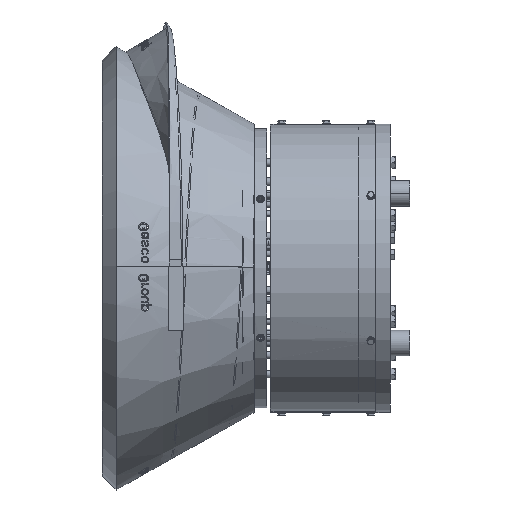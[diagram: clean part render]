
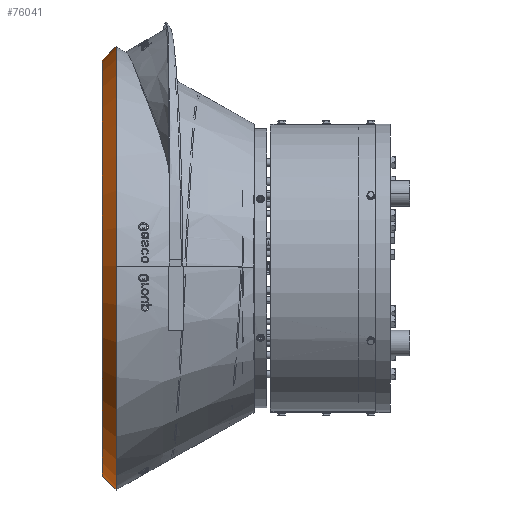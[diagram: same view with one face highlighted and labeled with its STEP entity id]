
A CAD part, left-side view. The second image highlights one B-rep face of the part: STEP entity #76041.
In plain terms, the highlighted conical face has half-angle 45 degrees and reference radius 335.079 mm.
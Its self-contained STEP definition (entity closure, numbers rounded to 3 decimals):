
#75862=CARTESIAN_POINT('',(0.,215.223,0.));
#75863=DIRECTION('',(0.,1.,0.));
#75864=DIRECTION('',(0.,0.,-1.));
#75865=AXIS2_PLACEMENT_3D('',#75862,#75863,#75864);
#75913=DIRECTION('',(0.,-0.707,-0.707));
#75914=VECTOR('',#75913,30.);
#75915=CARTESIAN_POINT('',(0.,236.436,
-324.472));
#75916=LINE('',#75915,#75914);
#75917=CARTESIAN_POINT('',(0.,236.436,0.));
#75918=DIRECTION('',(0.,1.,0.));
#75919=DIRECTION('',(0.,0.,-1.));
#75920=AXIS2_PLACEMENT_3D('',#75917,#75918,#75919);
#75922=DIRECTION('',(0.,-0.707,0.707));
#75923=VECTOR('',#75922,30.);
#75924=CARTESIAN_POINT('',(0.,236.436,
324.472));
#75925=LINE('',#75924,#75923);
#75930=CARTESIAN_POINT('',(0.,236.436,
-324.472));
#75931=VERTEX_POINT('',#75930);
#75932=CARTESIAN_POINT('',(0.,215.223,
-345.686));
#75933=VERTEX_POINT('',#75932);
#75938=CARTESIAN_POINT('',(0.,236.436,
324.472));
#75939=VERTEX_POINT('',#75938);
#75940=CARTESIAN_POINT('',(0.,215.223,
345.686));
#75941=VERTEX_POINT('',#75940);
#76030=CARTESIAN_POINT('',(0.,225.829,0.));
#76031=DIRECTION('',(0.,-1.,0.));
#76032=DIRECTION('',(0.,0.,1.));
#76033=AXIS2_PLACEMENT_3D('',#76030,#76031,#76032);
#76034=CONICAL_SURFACE('',#76033,335.079,45.);
#76035=ORIENTED_EDGE('',*,*,#76021,.F.);
#76036=ORIENTED_EDGE('',*,*,#75998,.T.);
#76037=ORIENTED_EDGE('',*,*,#76024,.T.);
#76038=ORIENTED_EDGE('',*,*,#75947,.F.);
#76039=EDGE_LOOP('',(#76035,#76036,#76037,#76038));
#76040=FACE_OUTER_BOUND('',#76039,.F.);
#75866=CIRCLE('',#75865,345.686);
#75921=CIRCLE('',#75920,324.472);
#75947=EDGE_CURVE('',#75933,#75941,#75866,.T.);
#75998=EDGE_CURVE('',#75931,#75939,#75921,.T.);
#76021=EDGE_CURVE('',#75931,#75933,#75916,.T.);
#76024=EDGE_CURVE('',#75939,#75941,#75925,.T.);
#76041=ADVANCED_FACE('',(#76040),#76034,.T.);
